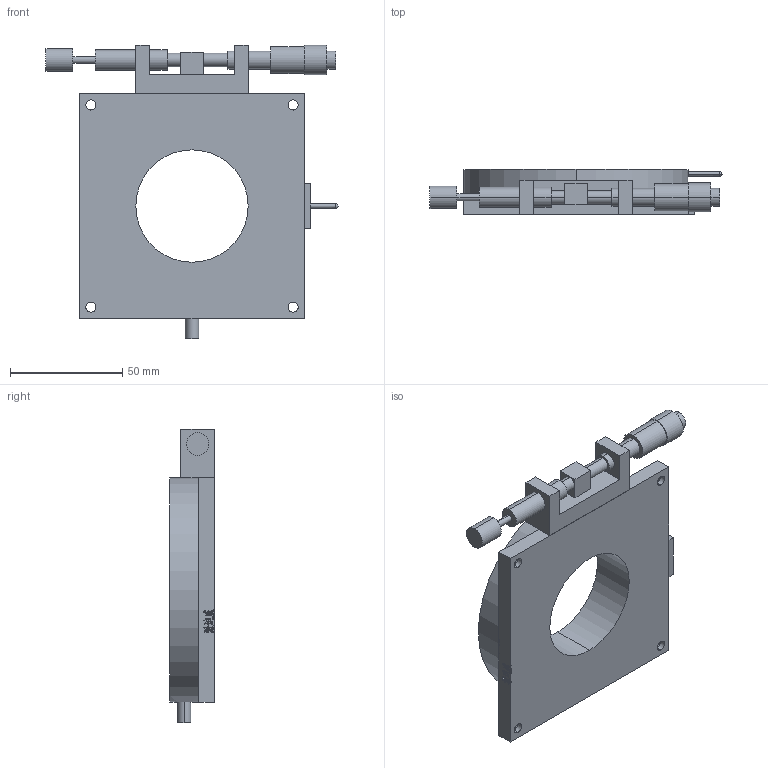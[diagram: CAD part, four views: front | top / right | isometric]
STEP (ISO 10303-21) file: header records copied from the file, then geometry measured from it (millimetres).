
FILE_DESCRIPTION (( 'STEP AP214' ), '1' );
FILE_NAME ('PT-R100.STEP', '2022-11-12T08:11:50', ( '' ), ( '' ), 'SwSTEP 2.0', 'SolidWorks 2017', '' );
FILE_SCHEMA (( 'AUTOMOTIVE_DESIGN' ));
Length unit declared in the file: millimetre
Products named in the file (1): PT-R100
Bounding box: 130 x 20 x 130.5 mm (x, y, z)
Volume: 148540.2 mm3; surface area: 35753.2 mm2
Topology: 4 solids, 4 shells, 444 faces, 1204 edges, 787 vertices
Faces by surface type: plane 280, bspline 84, cylinder 62, cone 16, sphere 2
Entity records: 17519 total; most frequent: CARTESIAN_POINT 6630, ORIENTED_EDGE 2368, DIRECTION 1864, EDGE_CURVE 1184, LINE 882, VECTOR 882, VERTEX_POINT 785, EDGE_LOOP 495
